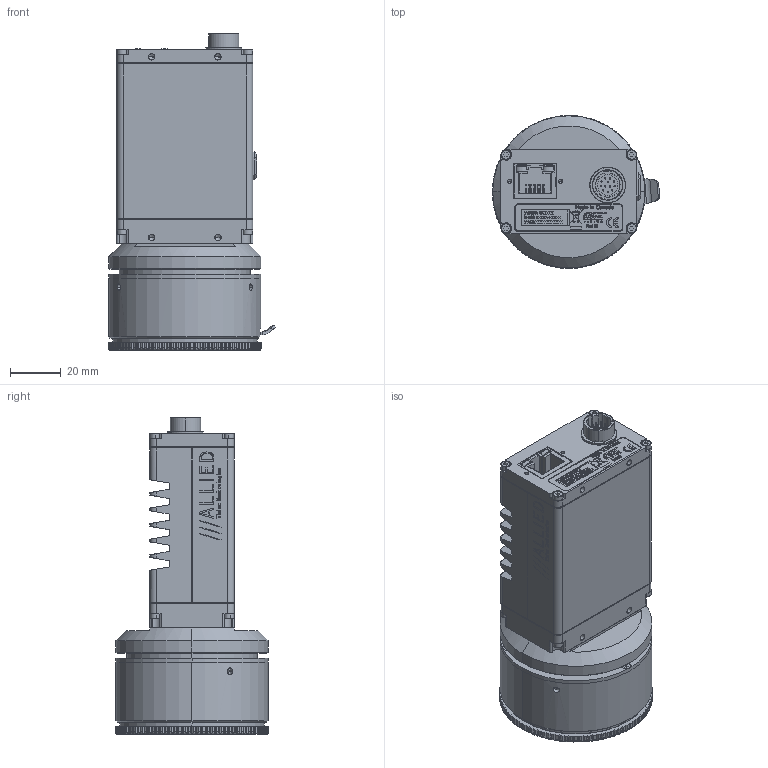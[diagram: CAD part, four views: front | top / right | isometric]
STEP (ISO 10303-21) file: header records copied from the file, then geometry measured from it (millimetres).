
FILE_DESCRIPTION (( 'STEP AP214' ), '1' );
FILE_NAME ('GT3300M F-MOUNT CAMERAS ASSY_final.STEP', '2014-01-03T17:33:24', ( 'Admin' ), ( '' ), 'SwSTEP 2.0', 'SolidWorks 2013', '' );
FILE_SCHEMA (( 'AUTOMOTIVE_DESIGN' ));
Length unit declared in the file: millimetre
Products named in the file (35): GT3300M F-MOUNT CAMERAS ASSY_final; 140061-SCREW SKT CAP M2x8 SS; LABEL PRINTOUT; 740144A-GT SERIES LABEL; 140033-SCREW SET M3x3 SS; 140035-NIKON 54341 MAIN RING; 140036 NIKON BF-1A FMOUNT CAP; 140035-NIKON 54341 TAB; 140035-NIKON 54341 TENSION RING; 110052A-FMOUNT ADAPTER; 140068-SCREW FLAT HEAD M2x4 SS; 110112A-TEFLON INSERT 0.125IN DIA 0.57IN LENGTH; 140035-NIKON 54341 SCREW; 140035-NIKON 54341 SPRING; 110113A-FMOUNT ADAPTER PLATE; 100114A-FMOUNT FRONT ASSY_REV B; 110103A-GX CCD GASKET; 110111A-GX FMOUNT BASE; 140067-SCREW SOCKET CAP FLAT HEAD  M3x6 BLACK; KAI-08050 WINDOW; KAI-08050 BODY; 220177-KODAK KAI-08050-ABA; 110162A-GT FRONT PLATE LF; GT FRONT ASSY KODAK LF_100204A-GT3300M FRONT ASSY F-MOUNT; GT BOT COVER_110160A-GT BOT COVER LONG; GT TOP COVER_110161A-GT TOP COVER LONG; CN4; CN3_2; 200130A-GT CONTROL FAST; 110153A-GT BACK PLATE; 260034-HIROSE HR10A-10R-12PB NUT; 260034-HIROSE HR10A-10R-12PB; 260034-HIROSE HR10A-10R-12PB WASHER; 100191A-GT BACK ASSY; GT BODY ASSY_100192A-GT BODY ASSY FAST
Assembly tree (52 placements, depth 4):
  GT3300M F-MOUNT CAMERAS ASSY_final
    140061-SCREW SKT CAP M2x8 SS  x4
    LABEL PRINTOUT
    740144A-GT SERIES LABEL
    GT FRONT ASSY KODAK LF_100204A-GT3300M FRONT ASSY F-MOUNT
      100114A-FMOUNT FRONT ASSY_REV B
        140033-SCREW SET M3x3 SS  x3
        140035-NIKON 54341 MAIN RING
        140036 NIKON BF-1A FMOUNT CAP
        140035-NIKON 54341 TAB
        140035-NIKON 54341 TENSION RING
        110052A-FMOUNT ADAPTER
        140068-SCREW FLAT HEAD M2x4 SS  x3
        110112A-TEFLON INSERT 0.125IN DIA 0.57IN LENGTH  x3
        140035-NIKON 54341 SCREW  x3
        140035-NIKON 54341 SPRING
        110113A-FMOUNT ADAPTER PLATE
      110103A-GX CCD GASKET
      110111A-GX FMOUNT BASE
      140067-SCREW SOCKET CAP FLAT HEAD  M3x6 BLACK  x4
      220177-KODAK KAI-08050-ABA
        KAI-08050 WINDOW
        KAI-08050 BODY
      110162A-GT FRONT PLATE LF
    GT BODY ASSY_100192A-GT BODY ASSY FAST
      140061-SCREW SKT CAP M2x8 SS  x4
      GT BOT COVER_110160A-GT BOT COVER LONG
      GT TOP COVER_110161A-GT TOP COVER LONG
      200130A-GT CONTROL FAST
        CN4
        CN3_2
      100191A-GT BACK ASSY
        110153A-GT BACK PLATE
        260034-HIROSE HR10A-10R-12PB NUT
        260034-HIROSE HR10A-10R-12PB
        260034-HIROSE HR10A-10R-12PB WASHER
Bounding box: 65.61 x 59.99 x 124.23 mm (x, y, z)
Volume: 113465.5 mm3; surface area: 88336.8 mm2
Topology: 62 solids, 62 shells, 4401 faces, 11525 edges, 7513 vertices
Faces by surface type: plane 2568, cylinder 975, bspline 657, cone 201
Entity records: 154330 total; most frequent: CARTESIAN_POINT 54555, ORIENTED_EDGE 21456, DIRECTION 18181, EDGE_CURVE 10728, VECTOR 7323, LINE 7323, VERTEX_POINT 7085, AXIS2_PLACEMENT_3D 5429
